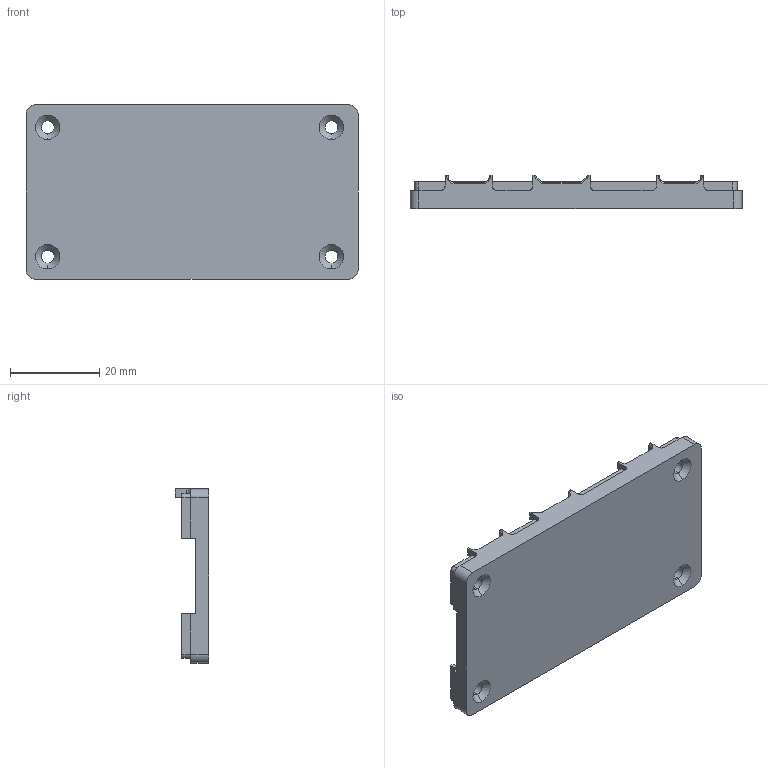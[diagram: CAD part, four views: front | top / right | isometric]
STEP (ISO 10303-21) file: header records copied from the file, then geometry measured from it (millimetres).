
FILE_DESCRIPTION (( 'STEP AP214' ), '1' );
FILE_NAME ('LubanCat ZeroN 菁裔.STEP', '2022-11-28T06:14:28', ( '' ), ( '' ), 'SwSTEP 2.0', 'SolidWorks 2021', '' );
FILE_SCHEMA (( 'AUTOMOTIVE_DESIGN' ));
Length unit declared in the file: millimetre
Products named in the file (1): LubanCat ZeroN 菁裔
Bounding box: 74.4 x 7.4 x 39 mm (x, y, z)
Volume: 6941.4 mm3; surface area: 7867.2 mm2
Topology: 1 solids, 1 shells, 151 faces, 427 edges, 278 vertices
Faces by surface type: plane 87, cylinder 48, cone 16
Entity records: 4927 total; most frequent: CARTESIAN_POINT 869, ORIENTED_EDGE 854, DIRECTION 839, EDGE_CURVE 427, VECTOR 311, LINE 311, VERTEX_POINT 278, AXIS2_PLACEMENT_3D 264
